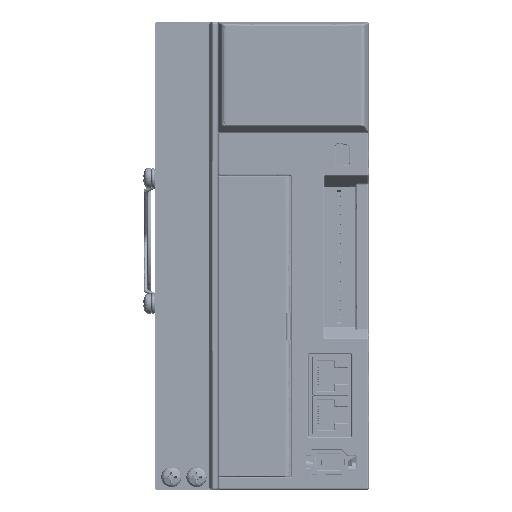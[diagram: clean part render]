
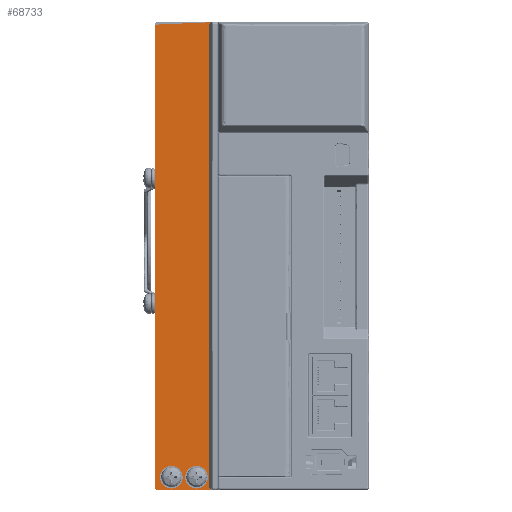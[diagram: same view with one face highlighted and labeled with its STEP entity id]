
A CAD part, front view. The second image highlights one B-rep face of the part: STEP entity #68733.
In plain terms, the highlighted planar face has unit normal (0, -1, 0).
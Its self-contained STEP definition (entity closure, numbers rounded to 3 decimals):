
#1220=FACE_BOUND('',#83345,.T.);
#1221=FACE_BOUND('',#83346,.T.);
#36011=B_SPLINE_CURVE_WITH_KNOTS('',1,(#511488,#511489),.UNSPECIFIED.,.F.,
 .F.,(2,2),(0.,1.2),.UNSPECIFIED.);
#36012=B_SPLINE_CURVE_WITH_KNOTS('',1,(#511490,#511491),.UNSPECIFIED.,.F.,
 .F.,(2,2),(0.,1.2),.UNSPECIFIED.);
#36013=B_SPLINE_CURVE_WITH_KNOTS('',1,(#511492,#511493),.UNSPECIFIED.,.F.,
 .F.,(2,2),(0.,1.3),.UNSPECIFIED.);
#36014=B_SPLINE_CURVE_WITH_KNOTS('',1,(#511494,#511495),.UNSPECIFIED.,.F.,
 .F.,(2,2),(-183.6,0.),.UNSPECIFIED.);
#36015=B_SPLINE_CURVE_WITH_KNOTS('',1,(#511496,#511497),.UNSPECIFIED.,.F.,
 .F.,(2,2),(-24.7,0.),.UNSPECIFIED.);
#36016=B_SPLINE_CURVE_WITH_KNOTS('',1,(#511498,#511499),.UNSPECIFIED.,.F.,
 .F.,(2,2),(0.,2.5),.UNSPECIFIED.);
#36017=B_SPLINE_CURVE_WITH_KNOTS('',1,(#511500,#511501),.UNSPECIFIED.,.F.,
 .F.,(2,2),(0.,1.3),.UNSPECIFIED.);
#36018=B_SPLINE_CURVE_WITH_KNOTS('',1,(#511502,#511503),.UNSPECIFIED.,.F.,
 .F.,(2,2),(0.,183.434),.UNSPECIFIED.);
#36019=B_SPLINE_CURVE_WITH_KNOTS('',1,(#511529,#511530),.UNSPECIFIED.,.F.,
 .F.,(2,2),(0.,22.256),.UNSPECIFIED.);
#68733=ADVANCED_FACE('',(#75801,#1220,#1221),#215682,.T.);
#75801=FACE_OUTER_BOUND('',#83344,.T.);
#83344=EDGE_LOOP('',(#122279,#122280,#122281,#122282,#122283,#122284,#122285,
#122286,#122287,#122288,#122289));
#83345=EDGE_LOOP('',(#122290,#122291));
#83346=EDGE_LOOP('',(#122292,#122293));
#122279=ORIENTED_EDGE('',*,*,#163608,.T.);
#122280=ORIENTED_EDGE('',*,*,#163605,.F.);
#122281=ORIENTED_EDGE('',*,*,#163604,.F.);
#122282=ORIENTED_EDGE('',*,*,#163603,.F.);
#122283=ORIENTED_EDGE('',*,*,#163607,.F.);
#122284=ORIENTED_EDGE('',*,*,#163615,.T.);
#122285=ORIENTED_EDGE('',*,*,#163616,.T.);
#122286=ORIENTED_EDGE('',*,*,#163609,.T.);
#122287=ORIENTED_EDGE('',*,*,#163610,.T.);
#122288=ORIENTED_EDGE('',*,*,#163606,.F.);
#122289=ORIENTED_EDGE('',*,*,#163602,.F.);
#122290=ORIENTED_EDGE('',*,*,#163612,.T.);
#122291=ORIENTED_EDGE('',*,*,#163611,.T.);
#122292=ORIENTED_EDGE('',*,*,#163614,.T.);
#122293=ORIENTED_EDGE('',*,*,#163613,.T.);
#163602=EDGE_CURVE('',#209605,#209606,#36011,.T.);
#163603=EDGE_CURVE('',#209608,#209607,#36012,.T.);
#163604=EDGE_CURVE('',#209607,#209609,#36013,.T.);
#163605=EDGE_CURVE('',#209609,#209610,#36014,.T.);
#163606=EDGE_CURVE('',#209606,#209611,#36015,.T.);
#163607=EDGE_CURVE('',#209612,#209608,#36016,.T.);
#163608=EDGE_CURVE('',#209605,#209610,#36017,.T.);
#163609=EDGE_CURVE('',#209614,#209615,#36018,.T.);
#163610=EDGE_CURVE('',#209615,#209611,#170228,.T.);
#163611=EDGE_CURVE('',#209616,#209617,#170229,.T.);
#163612=EDGE_CURVE('',#209617,#209616,#170230,.T.);
#163613=EDGE_CURVE('',#209618,#209619,#170231,.T.);
#163614=EDGE_CURVE('',#209619,#209618,#170232,.T.);
#163615=EDGE_CURVE('',#209612,#209613,#36019,.T.);
#163616=EDGE_CURVE('',#209613,#209614,#170233,.T.);
#170228=(
BOUNDED_CURVE()
B_SPLINE_CURVE(2,(#511504,#511505,#511506,#511507,#511508),
 .UNSPECIFIED.,.F.,.F.)
B_SPLINE_CURVE_WITH_KNOTS((3,2,3),(0.,0.628,1.257),
 .UNSPECIFIED.)
CURVE()
GEOMETRIC_REPRESENTATION_ITEM()
RATIONAL_B_SPLINE_CURVE((1.,0.924,1.,0.924,1.))
REPRESENTATION_ITEM('')
);
#170229=(
BOUNDED_CURVE()
B_SPLINE_CURVE(2,(#511509,#511510,#511511,#511512,#511513),
 .UNSPECIFIED.,.F.,.F.)
B_SPLINE_CURVE_WITH_KNOTS((3,2,3),(0.,4.443,
8.886),.UNSPECIFIED.)
CURVE()
GEOMETRIC_REPRESENTATION_ITEM()
RATIONAL_B_SPLINE_CURVE((1.,0.707,1.,0.707,1.))
REPRESENTATION_ITEM('')
);
#170230=(
BOUNDED_CURVE()
B_SPLINE_CURVE(2,(#511514,#511515,#511516,#511517,#511518),
 .UNSPECIFIED.,.F.,.F.)
B_SPLINE_CURVE_WITH_KNOTS((3,2,3),(0.,4.443,8.886),
 .UNSPECIFIED.)
CURVE()
GEOMETRIC_REPRESENTATION_ITEM()
RATIONAL_B_SPLINE_CURVE((1.,0.707,1.,0.707,1.))
REPRESENTATION_ITEM('')
);
#170231=(
BOUNDED_CURVE()
B_SPLINE_CURVE(2,(#511519,#511520,#511521,#511522,#511523),
 .UNSPECIFIED.,.F.,.F.)
B_SPLINE_CURVE_WITH_KNOTS((3,2,3),(0.,4.443,
8.886),.UNSPECIFIED.)
CURVE()
GEOMETRIC_REPRESENTATION_ITEM()
RATIONAL_B_SPLINE_CURVE((1.,0.707,1.,0.707,1.))
REPRESENTATION_ITEM('')
);
#170232=(
BOUNDED_CURVE()
B_SPLINE_CURVE(2,(#511524,#511525,#511526,#511527,#511528),
 .UNSPECIFIED.,.F.,.F.)
B_SPLINE_CURVE_WITH_KNOTS((3,2,3),(0.,4.443,8.886),
 .UNSPECIFIED.)
CURVE()
GEOMETRIC_REPRESENTATION_ITEM()
RATIONAL_B_SPLINE_CURVE((1.,0.707,1.,0.707,1.))
REPRESENTATION_ITEM('')
);
#170233=(
BOUNDED_CURVE()
B_SPLINE_CURVE(2,(#511531,#511532,#511533),.UNSPECIFIED.,.F.,.F.)
B_SPLINE_CURVE_WITH_KNOTS((3,3),(0.,1.222),.UNSPECIFIED.)
CURVE()
GEOMETRIC_REPRESENTATION_ITEM()
RATIONAL_B_SPLINE_CURVE((1.,0.722,1.))
REPRESENTATION_ITEM('')
);
#209605=VERTEX_POINT('',#511473);
#209606=VERTEX_POINT('',#511474);
#209607=VERTEX_POINT('',#511475);
#209608=VERTEX_POINT('',#511476);
#209609=VERTEX_POINT('',#511477);
#209610=VERTEX_POINT('',#511478);
#209611=VERTEX_POINT('',#511479);
#209612=VERTEX_POINT('',#511480);
#209613=VERTEX_POINT('',#511481);
#209614=VERTEX_POINT('',#511482);
#209615=VERTEX_POINT('',#511483);
#209616=VERTEX_POINT('',#511484);
#209617=VERTEX_POINT('',#511485);
#209618=VERTEX_POINT('',#511486);
#209619=VERTEX_POINT('',#511487);
#215682=PLANE('',#219027);
#219027=AXIS2_PLACEMENT_3D('',#511472,#222356,$);
#222356=DIRECTION('',(0.,-1.,0.));
#511472=CARTESIAN_POINT('',(-18.99,-22.9,152.16));
#511473=CARTESIAN_POINT('',(-21.6,-22.9,-51.3));
#511474=CARTESIAN_POINT('',(-21.6,-22.9,-52.5));
#511475=CARTESIAN_POINT('',(-21.6,-22.9,132.3));
#511476=CARTESIAN_POINT('',(-21.6,-22.9,133.5));
#511477=CARTESIAN_POINT('',(-22.9,-22.9,132.3));
#511478=CARTESIAN_POINT('',(-22.9,-22.9,-51.3));
#511479=CARTESIAN_POINT('',(-46.3,-22.9,-52.5));
#511480=CARTESIAN_POINT('',(-24.1,-22.9,133.5));
#511481=CARTESIAN_POINT('',(-46.335,-22.9,132.533));
#511482=CARTESIAN_POINT('',(-47.1,-22.9,131.734));
#511483=CARTESIAN_POINT('',(-47.1,-22.9,-51.7));
#511484=CARTESIAN_POINT('',(-30.6,-22.9,-45.5));
#511485=CARTESIAN_POINT('',(-30.6,-22.9,-49.5));
#511486=CARTESIAN_POINT('',(-40.6,-22.9,-45.5));
#511487=CARTESIAN_POINT('',(-40.6,-22.9,-49.5));
#511488=CARTESIAN_POINT('',(-21.6,-22.9,-51.3));
#511489=CARTESIAN_POINT('',(-21.6,-22.9,-52.5));
#511490=CARTESIAN_POINT('',(-21.6,-22.9,133.5));
#511491=CARTESIAN_POINT('',(-21.6,-22.9,132.3));
#511492=CARTESIAN_POINT('',(-21.6,-22.9,132.3));
#511493=CARTESIAN_POINT('',(-22.9,-22.9,132.3));
#511494=CARTESIAN_POINT('',(-22.9,-22.9,132.3));
#511495=CARTESIAN_POINT('',(-22.9,-22.9,-51.3));
#511496=CARTESIAN_POINT('',(-21.6,-22.9,-52.5));
#511497=CARTESIAN_POINT('',(-46.3,-22.9,-52.5));
#511498=CARTESIAN_POINT('',(-24.1,-22.9,133.5));
#511499=CARTESIAN_POINT('',(-21.6,-22.9,133.5));
#511500=CARTESIAN_POINT('',(-21.6,-22.9,-51.3));
#511501=CARTESIAN_POINT('',(-22.9,-22.9,-51.3));
#511502=CARTESIAN_POINT('',(-47.1,-22.9,131.734));
#511503=CARTESIAN_POINT('',(-47.1,-22.9,-51.7));
#511504=CARTESIAN_POINT('',(-47.1,-22.9,-51.7));
#511505=CARTESIAN_POINT('',(-47.1,-22.9,-52.031));
#511506=CARTESIAN_POINT('',(-46.866,-22.9,-52.266));
#511507=CARTESIAN_POINT('',(-46.631,-22.9,-52.5));
#511508=CARTESIAN_POINT('',(-46.3,-22.9,-52.5));
#511509=CARTESIAN_POINT('',(-30.6,-22.9,-45.5));
#511510=CARTESIAN_POINT('',(-28.6,-22.9,-45.5));
#511511=CARTESIAN_POINT('',(-28.6,-22.9,-47.5));
#511512=CARTESIAN_POINT('',(-28.6,-22.9,-49.5));
#511513=CARTESIAN_POINT('',(-30.6,-22.9,-49.5));
#511514=CARTESIAN_POINT('',(-30.6,-22.9,-49.5));
#511515=CARTESIAN_POINT('',(-32.6,-22.9,-49.5));
#511516=CARTESIAN_POINT('',(-32.6,-22.9,-47.5));
#511517=CARTESIAN_POINT('',(-32.6,-22.9,-45.5));
#511518=CARTESIAN_POINT('',(-30.6,-22.9,-45.5));
#511519=CARTESIAN_POINT('',(-40.6,-22.9,-45.5));
#511520=CARTESIAN_POINT('',(-38.6,-22.9,-45.5));
#511521=CARTESIAN_POINT('',(-38.6,-22.9,-47.5));
#511522=CARTESIAN_POINT('',(-38.6,-22.9,-49.5));
#511523=CARTESIAN_POINT('',(-40.6,-22.9,-49.5));
#511524=CARTESIAN_POINT('',(-40.6,-22.9,-49.5));
#511525=CARTESIAN_POINT('',(-42.6,-22.9,-49.5));
#511526=CARTESIAN_POINT('',(-42.6,-22.9,-47.5));
#511527=CARTESIAN_POINT('',(-42.6,-22.9,-45.5));
#511528=CARTESIAN_POINT('',(-40.6,-22.9,-45.5));
#511529=CARTESIAN_POINT('',(-24.1,-22.9,133.5));
#511530=CARTESIAN_POINT('',(-46.335,-22.9,132.533));
#511531=CARTESIAN_POINT('',(-46.335,-22.9,132.533));
#511532=CARTESIAN_POINT('',(-47.1,-22.9,132.5));
#511533=CARTESIAN_POINT('',(-47.1,-22.9,131.734));
